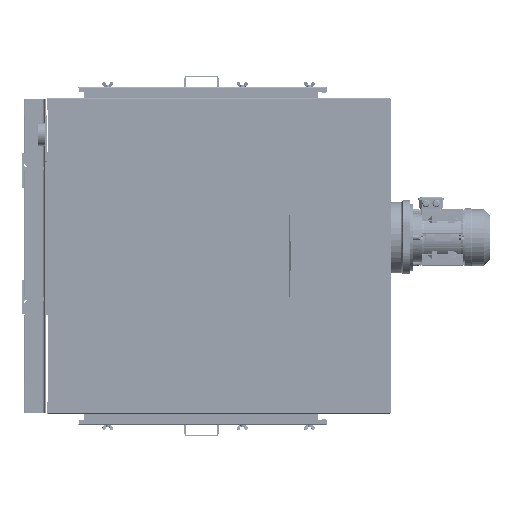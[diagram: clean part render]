
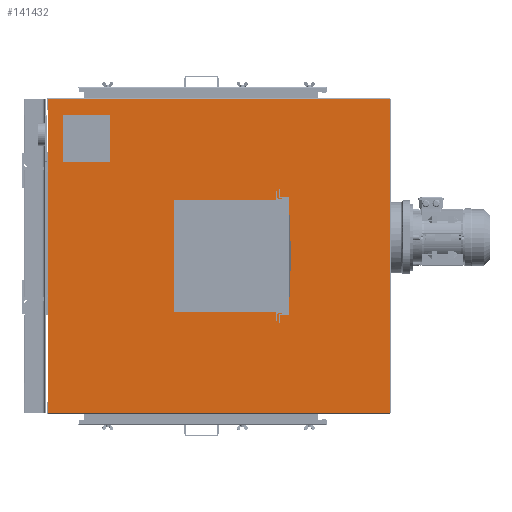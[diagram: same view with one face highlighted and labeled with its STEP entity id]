
A CAD part, left-side view. The second image highlights one B-rep face of the part: STEP entity #141432.
In plain terms, the highlighted planar face has unit normal (-1, 0, 0).
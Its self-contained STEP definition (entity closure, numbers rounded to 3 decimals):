
#5103=FACE_BOUND('',#19844,.T.);
#5104=FACE_BOUND('',#19845,.T.);
#5105=FACE_BOUND('',#19846,.T.);
#5106=FACE_BOUND('',#19847,.T.);
#5107=FACE_BOUND('',#19848,.T.);
#5108=FACE_BOUND('',#19849,.T.);
#7185=PLANE('',#149660);
#11813=FACE_OUTER_BOUND('',#19843,.T.);
#19843=EDGE_LOOP('',(#93461,#93462,#93463,#93464));
#19844=EDGE_LOOP('',(#93465));
#19845=EDGE_LOOP('',(#93466));
#19846=EDGE_LOOP('',(#93467));
#19847=EDGE_LOOP('',(#93468));
#19848=EDGE_LOOP('',(#93469,#93470,#93471,#93472));
#19849=EDGE_LOOP('',(#93473,#93474,#93475,#93476,#93477,#93478,#93479,#93480,
#93481,#93482,#93483,#93484));
#29848=LINE('',#199892,#41931);
#29858=LINE('',#199920,#41941);
#29865=LINE('',#199933,#41948);
#29881=LINE('',#199977,#41964);
#29882=LINE('',#199980,#41965);
#29884=LINE('',#199985,#41967);
#29885=LINE('',#199987,#41968);
#29886=LINE('',#199989,#41969);
#29887=LINE('',#199990,#41970);
#29888=LINE('',#200001,#41971);
#29889=LINE('',#200003,#41972);
#29890=LINE('',#200005,#41973);
#29891=LINE('',#200006,#41974);
#29892=LINE('',#200008,#41975);
#29893=LINE('',#200010,#41976);
#29894=LINE('',#200012,#41977);
#29895=LINE('',#200014,#41978);
#29896=LINE('',#200016,#41979);
#29897=LINE('',#200018,#41980);
#29898=LINE('',#200019,#41981);
#41931=VECTOR('',#163273,3.);
#41941=VECTOR('',#163297,3.);
#41948=VECTOR('',#163308,342.);
#41964=VECTOR('',#163344,30.);
#41965=VECTOR('',#163347,30.);
#41967=VECTOR('',#163351,1524.);
#41968=VECTOR('',#163352,1398.);
#41969=VECTOR('',#163353,1524.);
#41970=VECTOR('',#163354,1398.);
#41971=VECTOR('',#163363,152.);
#41972=VECTOR('',#163364,152.);
#41973=VECTOR('',#163365,152.);
#41974=VECTOR('',#163366,152.);
#41975=VECTOR('',#163367,472.);
#41976=VECTOR('',#163368,30.);
#41977=VECTOR('',#163369,3.);
#41978=VECTOR('',#163370,342.);
#41979=VECTOR('',#163371,3.);
#41980=VECTOR('',#163372,30.);
#41981=VECTOR('',#163373,472.);
#53579=CIRCLE('',#149661,6.5);
#53580=CIRCLE('',#149662,6.5);
#53581=CIRCLE('',#149663,6.5);
#53582=CIRCLE('',#149664,6.5);
#58709=VERTEX_POINT('',#199889);
#58710=VERTEX_POINT('',#199891);
#58720=VERTEX_POINT('',#199917);
#58721=VERTEX_POINT('',#199919);
#58743=VERTEX_POINT('',#199975);
#58744=VERTEX_POINT('',#199979);
#58745=VERTEX_POINT('',#199983);
#58746=VERTEX_POINT('',#199984);
#58747=VERTEX_POINT('',#199986);
#58748=VERTEX_POINT('',#199988);
#58749=VERTEX_POINT('',#199991);
#58750=VERTEX_POINT('',#199993);
#58751=VERTEX_POINT('',#199995);
#58752=VERTEX_POINT('',#199997);
#58753=VERTEX_POINT('',#199999);
#58754=VERTEX_POINT('',#200000);
#58755=VERTEX_POINT('',#200002);
#58756=VERTEX_POINT('',#200004);
#58757=VERTEX_POINT('',#200007);
#58758=VERTEX_POINT('',#200009);
#58759=VERTEX_POINT('',#200011);
#58760=VERTEX_POINT('',#200013);
#58761=VERTEX_POINT('',#200015);
#58762=VERTEX_POINT('',#200017);
#72276=EDGE_CURVE('',#58710,#58709,#29848,.T.);
#72289=EDGE_CURVE('',#58721,#58720,#29858,.T.);
#72296=EDGE_CURVE('',#58720,#58710,#29865,.T.);
#72318=EDGE_CURVE('',#58709,#58743,#29881,.T.);
#72319=EDGE_CURVE('',#58744,#58721,#29882,.T.);
#72321=EDGE_CURVE('',#58745,#58746,#29884,.T.);
#72322=EDGE_CURVE('',#58746,#58747,#29885,.T.);
#72323=EDGE_CURVE('',#58747,#58748,#29886,.T.);
#72324=EDGE_CURVE('',#58748,#58745,#29887,.T.);
#72325=EDGE_CURVE('',#58749,#58749,#53579,.T.);
#72326=EDGE_CURVE('',#58750,#58750,#53580,.T.);
#72327=EDGE_CURVE('',#58751,#58751,#53581,.T.);
#72328=EDGE_CURVE('',#58752,#58752,#53582,.T.);
#72329=EDGE_CURVE('',#58753,#58754,#29888,.T.);
#72330=EDGE_CURVE('',#58754,#58755,#29889,.T.);
#72331=EDGE_CURVE('',#58755,#58756,#29890,.T.);
#72332=EDGE_CURVE('',#58756,#58753,#29891,.T.);
#72333=EDGE_CURVE('',#58743,#58757,#29892,.T.);
#72334=EDGE_CURVE('',#58757,#58758,#29893,.T.);
#72335=EDGE_CURVE('',#58758,#58759,#29894,.T.);
#72336=EDGE_CURVE('',#58759,#58760,#29895,.T.);
#72337=EDGE_CURVE('',#58760,#58761,#29896,.T.);
#72338=EDGE_CURVE('',#58761,#58762,#29897,.T.);
#72339=EDGE_CURVE('',#58762,#58744,#29898,.T.);
#93461=ORIENTED_EDGE('',*,*,#72321,.T.);
#93462=ORIENTED_EDGE('',*,*,#72322,.T.);
#93463=ORIENTED_EDGE('',*,*,#72323,.T.);
#93464=ORIENTED_EDGE('',*,*,#72324,.T.);
#93465=ORIENTED_EDGE('',*,*,#72325,.T.);
#93466=ORIENTED_EDGE('',*,*,#72326,.T.);
#93467=ORIENTED_EDGE('',*,*,#72327,.T.);
#93468=ORIENTED_EDGE('',*,*,#72328,.T.);
#93469=ORIENTED_EDGE('',*,*,#72329,.T.);
#93470=ORIENTED_EDGE('',*,*,#72330,.T.);
#93471=ORIENTED_EDGE('',*,*,#72331,.T.);
#93472=ORIENTED_EDGE('',*,*,#72332,.T.);
#93473=ORIENTED_EDGE('',*,*,#72289,.T.);
#93474=ORIENTED_EDGE('',*,*,#72296,.T.);
#93475=ORIENTED_EDGE('',*,*,#72276,.T.);
#93476=ORIENTED_EDGE('',*,*,#72318,.T.);
#93477=ORIENTED_EDGE('',*,*,#72333,.T.);
#93478=ORIENTED_EDGE('',*,*,#72334,.T.);
#93479=ORIENTED_EDGE('',*,*,#72335,.T.);
#93480=ORIENTED_EDGE('',*,*,#72336,.T.);
#93481=ORIENTED_EDGE('',*,*,#72337,.T.);
#93482=ORIENTED_EDGE('',*,*,#72338,.T.);
#93483=ORIENTED_EDGE('',*,*,#72339,.T.);
#93484=ORIENTED_EDGE('',*,*,#72319,.T.);
#141432=ADVANCED_FACE('',(#11813,#5103,#5104,#5105,#5106,#5107,#5108),#7185,
 .F.);
#149660=AXIS2_PLACEMENT_3D('',#199982,#163349,#163350);
#149661=AXIS2_PLACEMENT_3D('',#199992,#163355,#163356);
#149662=AXIS2_PLACEMENT_3D('',#199994,#163357,#163358);
#149663=AXIS2_PLACEMENT_3D('',#199996,#163359,#163360);
#149664=AXIS2_PLACEMENT_3D('',#199998,#163361,#163362);
#163273=DIRECTION('',(0.,0.,-1.));
#163297=DIRECTION('',(0.,0.,1.));
#163308=DIRECTION('',(0.,-1.,0.));
#163344=DIRECTION('',(0.,-1.,0.));
#163347=DIRECTION('',(0.,-1.,0.));
#163349=DIRECTION('center_axis',(1.,0.,0.));
#163350=DIRECTION('ref_axis',(0.,1.,0.));
#163351=DIRECTION('',(0.,1.,0.));
#163352=DIRECTION('',(0.,0.,-1.));
#163353=DIRECTION('',(0.,-1.,0.));
#163354=DIRECTION('',(0.,0.,1.));
#163355=DIRECTION('center_axis',(1.,0.,0.));
#163356=DIRECTION('ref_axis',(0.,1.,0.));
#163357=DIRECTION('center_axis',(1.,0.,0.));
#163358=DIRECTION('ref_axis',(0.,1.,0.));
#163359=DIRECTION('center_axis',(1.,0.,0.));
#163360=DIRECTION('ref_axis',(0.,1.,0.));
#163361=DIRECTION('center_axis',(1.,0.,0.));
#163362=DIRECTION('ref_axis',(0.,1.,0.));
#163363=DIRECTION('',(0.,0.,-1.));
#163364=DIRECTION('',(0.,1.,0.));
#163365=DIRECTION('',(0.,0.,1.));
#163366=DIRECTION('',(0.,-1.,0.));
#163367=DIRECTION('',(0.,0.,-1.));
#163368=DIRECTION('',(0.,1.,0.));
#163369=DIRECTION('',(0.,0.,-1.));
#163370=DIRECTION('',(0.,1.,0.));
#163371=DIRECTION('',(0.,0.,1.));
#163372=DIRECTION('',(0.,1.,0.));
#163373=DIRECTION('',(0.,0.,1.));
#199889=CARTESIAN_POINT('',(-1943.466,-380.675,660.613));
#199891=CARTESIAN_POINT('',(-1943.466,-380.675,663.613));
#199892=CARTESIAN_POINT('',(-1943.466,-380.675,544.113));
#199917=CARTESIAN_POINT('',(-1943.466,-38.675,663.613));
#199919=CARTESIAN_POINT('',(-1943.466,-38.675,660.613));
#199920=CARTESIAN_POINT('',(-1943.466,-38.675,525.113));
#199933=CARTESIAN_POINT('',(-1943.466,-118.675,663.613));
#199975=CARTESIAN_POINT('',(-1943.466,-410.675,660.613));
#199977=CARTESIAN_POINT('',(-1943.466,-304.675,660.613));
#199979=CARTESIAN_POINT('',(-1943.466,-8.675,660.613));
#199980=CARTESIAN_POINT('',(-1943.466,-304.675,660.613));
#199982=CARTESIAN_POINT('Origin',(-1943.466,-198.675,424.613));
#199983=CARTESIAN_POINT('',(-1943.466,-960.675,1123.613));
#199984=CARTESIAN_POINT('',(-1943.466,563.325,1123.613));
#199985=CARTESIAN_POINT('',(-1943.466,-579.675,1123.613));
#199986=CARTESIAN_POINT('',(-1943.466,563.325,-274.387));
#199987=CARTESIAN_POINT('',(-1943.466,563.325,1125.613));
#199988=CARTESIAN_POINT('',(-1943.466,-960.675,-274.387));
#199989=CARTESIAN_POINT('',(-1943.466,182.325,-274.387));
#199990=CARTESIAN_POINT('',(-1943.466,-960.675,-276.387));
#199991=CARTESIAN_POINT('',(-1943.466,295.025,1037.813));
#199992=CARTESIAN_POINT('Origin',(-1943.466,301.525,1037.813));
#199993=CARTESIAN_POINT('',(-1943.466,473.025,859.813));
#199994=CARTESIAN_POINT('Origin',(-1943.466,479.525,859.813));
#199995=CARTESIAN_POINT('',(-1943.466,473.025,1037.813));
#199996=CARTESIAN_POINT('Origin',(-1943.466,479.525,1037.813));
#199997=CARTESIAN_POINT('',(-1943.466,295.025,859.813));
#199998=CARTESIAN_POINT('Origin',(-1943.466,301.525,859.813));
#199999=CARTESIAN_POINT('',(-1943.466,314.525,1024.813));
#200000=CARTESIAN_POINT('',(-1943.466,314.525,872.813));
#200001=CARTESIAN_POINT('',(-1943.466,314.525,648.713));
#200002=CARTESIAN_POINT('',(-1943.466,466.525,872.813));
#200003=CARTESIAN_POINT('',(-1943.466,133.925,872.813));
#200004=CARTESIAN_POINT('',(-1943.466,466.525,1024.813));
#200005=CARTESIAN_POINT('',(-1943.466,466.525,724.713));
#200006=CARTESIAN_POINT('',(-1943.466,57.925,1024.813));
#200007=CARTESIAN_POINT('',(-1943.466,-410.675,188.613));
#200008=CARTESIAN_POINT('',(-1943.466,-410.675,306.613));
#200009=CARTESIAN_POINT('',(-1943.466,-380.675,188.613));
#200010=CARTESIAN_POINT('',(-1943.466,-103.675,188.613));
#200011=CARTESIAN_POINT('',(-1943.466,-380.675,185.613));
#200012=CARTESIAN_POINT('',(-1943.466,-380.675,324.113));
#200013=CARTESIAN_POINT('',(-1943.466,-38.675,185.613));
#200014=CARTESIAN_POINT('',(-1943.466,-289.675,185.613));
#200015=CARTESIAN_POINT('',(-1943.466,-38.675,188.613));
#200016=CARTESIAN_POINT('',(-1943.466,-38.675,305.113));
#200017=CARTESIAN_POINT('',(-1943.466,-8.675,188.613));
#200018=CARTESIAN_POINT('',(-1943.466,-103.675,188.613));
#200019=CARTESIAN_POINT('',(-1943.466,-8.675,542.613));
